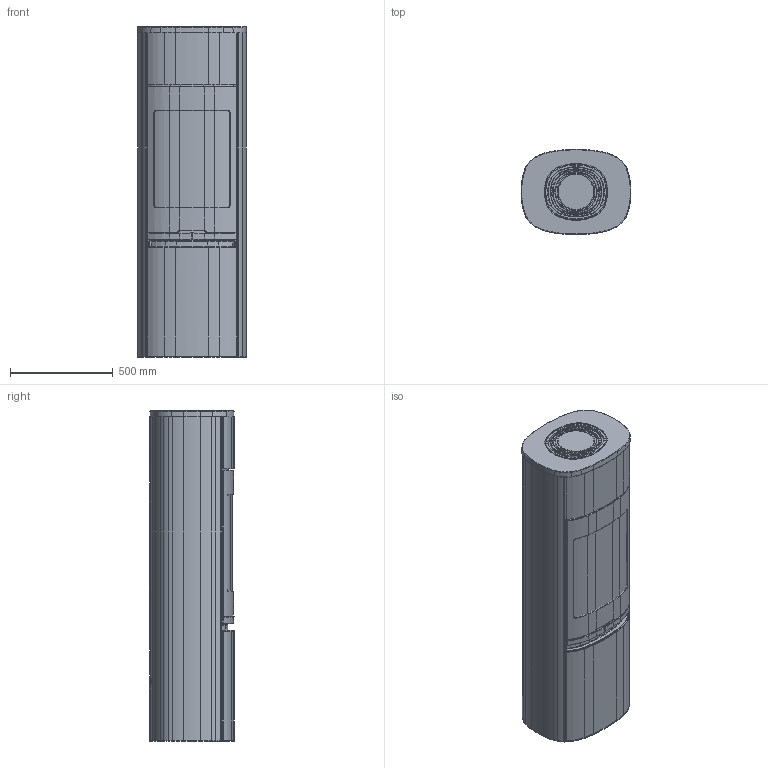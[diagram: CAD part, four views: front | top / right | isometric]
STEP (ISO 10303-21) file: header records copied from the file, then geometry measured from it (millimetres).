
FILE_DESCRIPTION(/* description */ ('Unknown'),/* implementation_level */ '2;1');
FILE_NAME(/* name */ 'DSN1111624_0_asm',/* time_stamp */ '2025-02-28T15:46:14+01:00',/* author */ ('Unknown'),/* organization */ ('NIBE AB'),/* preprocessor_version */ 'ST-DEVELOPER v18.102',/* originating_system */ 'Solid Edge',/* authorisation */ 'Unknown');
FILE_SCHEMA (('CONFIG_CONTROL_DESIGN'));
Products named in the file (11): DSN1111624; DSN1111629; DSN1111648; DSN1110955; DSN1111155; DSN1111118; DSN1111115; DSN1111641; DSN1111643; DSN1110998; DSN1110968
Assembly tree (10 placements, depth 2):
  DSN1111624
    DSN1111629
    DSN1111648
    DSN1110955
    DSN1111155
    DSN1111118
    DSN1111115
    DSN1111641
    DSN1111643
    DSN1110998
    DSN1110968
Bounding box: 534.52 x 414.02 x 1610 mm (x, y, z)
Volume: 264197671.8 mm3; surface area: 11666804.2 mm2
Topology: 10 solids, 10 shells, 1464 faces, 3736 edges, 2324 vertices
Faces by surface type: plane 385, cylinder 370, bspline 354, torus 203, cone 138, sphere 14
Full cylindrical faces by diameter (mm): 5 x5, 176.4 x1, 180.592 x1, 213.2 x1
Entity records: 71935 total; most frequent: CARTESIAN_POINT 38332, ORIENTED_EDGE 7384, DIRECTION 6494, EDGE_CURVE 3692, AXIS2_PLACEMENT_3D 2586, VERTEX_POINT 2318, FACE_BOUND 1552, EDGE_LOOP 1551
